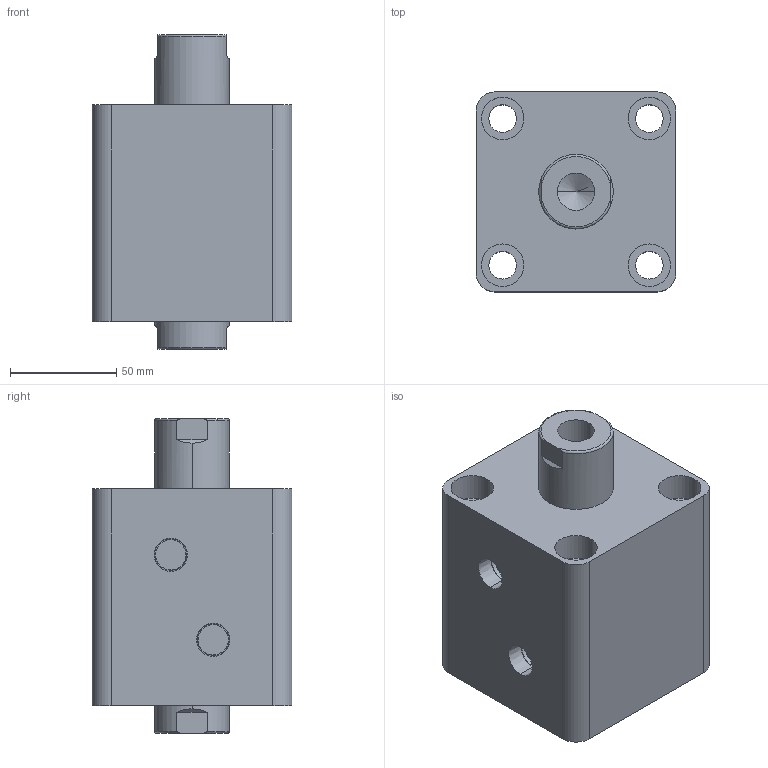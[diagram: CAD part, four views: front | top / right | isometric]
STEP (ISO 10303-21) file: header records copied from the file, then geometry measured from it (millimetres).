
FILE_DESCRIPTION (( 'STEP AP203' ), '1' );
FILE_NAME ('HTB-SW63-20N.STEP', '2019-10-07T10:02:39', ( '微软用户' ), ( '微软中国' ), 'SwSTEP 2.0', 'SolidWorks 2012', '' );
FILE_SCHEMA (( 'CONFIG_CONTROL_DESIGN' ));
Length unit declared in the file: millimetre
Products named in the file (3): HTB-SW63-20N; HTB-SW63-20N活塞杆; HTB-SW63-20掛极
Assembly tree (2 placements, depth 2):
  HTB-SW63-20N
    HTB-SW63-20掛极
    HTB-SW63-20N活塞杆
Bounding box: 94 x 94 x 148 mm (x, y, z)
Volume: 807504.8 mm3; surface area: 116431.7 mm2
Topology: 2 solids, 2 shells, 100 faces, 228 edges, 146 vertices
Faces by surface type: cylinder 48, plane 32, torus 12, cone 8
Entity records: 3253 total; most frequent: CARTESIAN_POINT 611, DIRECTION 542, ORIENTED_EDGE 448, AXIS2_PLACEMENT_3D 229, EDGE_CURVE 224, VERTEX_POINT 146, EDGE_LOOP 128, CIRCLE 124
